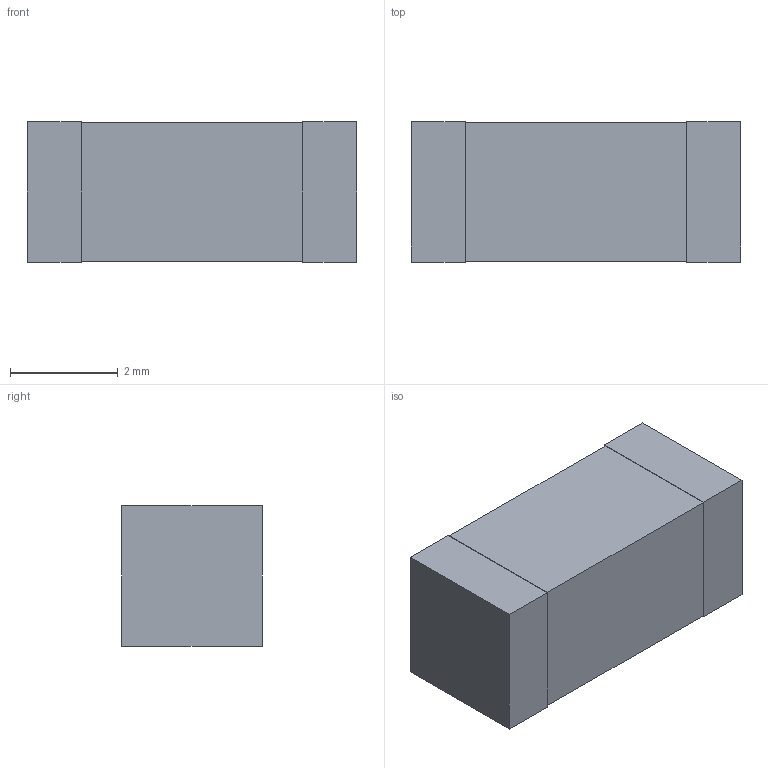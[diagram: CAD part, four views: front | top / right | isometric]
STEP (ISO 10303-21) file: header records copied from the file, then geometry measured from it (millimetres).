
FILE_DESCRIPTION(('Open CASCADE Model'),'2;1');
FILE_NAME('Open CASCADE Shape Model','2026-10-13T14:04:57',('Author'),( 'Open CASCADE'),'Open CASCADE STEP processor 8.0','build123d', 'Unknown');
FILE_SCHEMA(('AUTOMOTIVE_DESIGN { 1 0 10303 214 1 1 1 1 }'));
Length unit declared in the file: millimetre
Products named in the file (4): COMPOUND
Assembly tree (3 placements, depth 2):
  COMPOUND
    COMPOUND
    COMPOUND
    COMPOUND
Bounding box: 6.1 x 2.6 x 2.6 mm (x, y, z)
Volume: 40.6 mm3; surface area: 103.2 mm2
Topology: 3 solids, 3 shells, 18 faces, 36 edges, 24 vertices
Faces by surface type: plane 18
Entity records: 1032 total; most frequent: CARTESIAN_POINT 154, DIRECTION 152, LINE 108, VECTOR 108, ORIENTED_EDGE 72, PCURVE 72, DEFINITIONAL_REPRESENTATION 72, EDGE_CURVE 36
